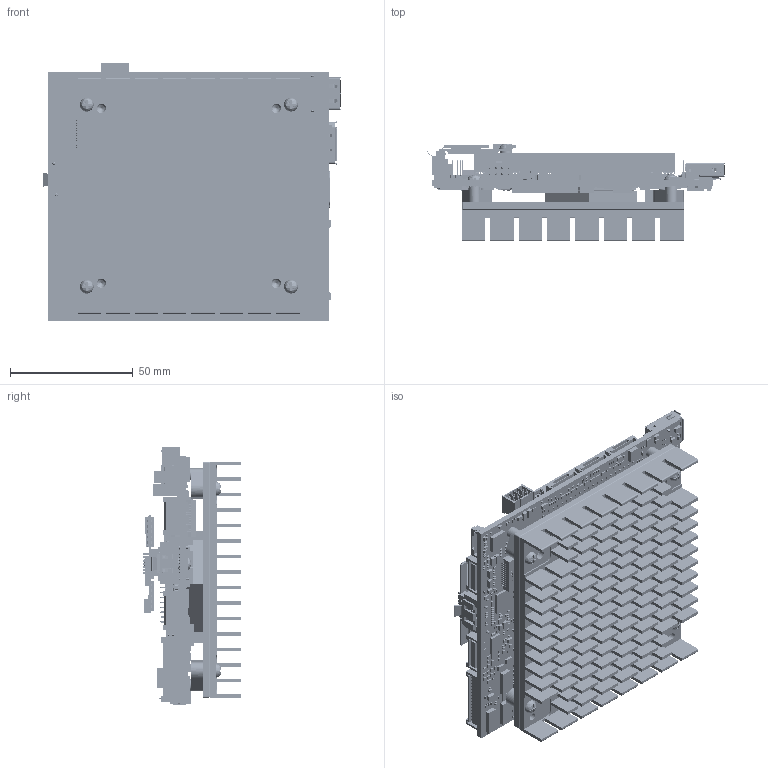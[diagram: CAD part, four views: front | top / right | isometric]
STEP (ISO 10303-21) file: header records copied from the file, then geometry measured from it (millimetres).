
FILE_DESCRIPTION((''),'2;1');
FILE_NAME('AIES_PCB_29APRIL15_ASM','2016-07-21T',('user'),(''),'PRO/ENGINEER BY PARAMETRIC TECHNOLOGY CORPORATION, 2012130','PRO/ENGINEER BY PARAMETRIC TECHNOLOGY CORPORATION, 2012130','');
FILE_SCHEMA(('CONFIG_CONTROL_DESIGN'));
Products named in the file (95): PCB; 10029449-001LF; 10117835; 472720001; 532610671; 67800-5025; 1; 2; 3; 4; 5; 6; 7; 8; 9; 10; 11; 12; 13; 14; 15; 16; 17; 18; 19; 20; 21; 22; 23; 24; 25; 26; 27; 28; 29; 30; 31; 32; 33; 34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
Assembly tree (312 placements, depth 6):
  AIES_PCB_29APRIL15_ASM
    PCB
    10029449-001LF
    10117835
    472720001
    532610671
    67800-5025
    M20-6112045_ASM
      1
      2
      3
      4
      5
      6
      7
      8
      9
      10
      11
      12
      13
      14
      15
      16
      17
      18
      19
      20
      21
      22
      23
      24
      25
      26
      27
      28
      29
      30
      31
      32
      33
      34
      35
      36
      37
      38
      39
      40
      41
      42
    SM08B-GHS-TB
    SM10B-GHS-TB  x3
    SM12B-GHS-TB  x2
    SM20B-GHDS-GAN-TF  x2
    SM30B-ZPDSS-TF
    SAMTEC-IPL1-104-01-L-D-RA-K
    TFM-120-02-X-DH
    10_ANY_ASM
      6_ANY  x120
      8_ANY
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Bounding box: 121.41 x 40.08 x 105.25 mm (x, y, z)
Volume: 147821 mm3; surface area: 186233.5 mm2
Topology: 305 solids, 1833 shells, 46066 faces, 120639 edges, 78463 vertices
Faces by surface type: plane 39874, cylinder 5633, bspline 210, cone 198, extrusion 107, torus 40, sphere 4
Entity records: 1123630 total; most frequent: CARTESIAN_POINT 218595, ORIENTED_EDGE 190452, DIRECTION 174616, EDGE_CURVE 95330, VECTOR 87528, LINE 87474, VERTEX_POINT 61750, AXIS2_PLACEMENT_3D 43544
